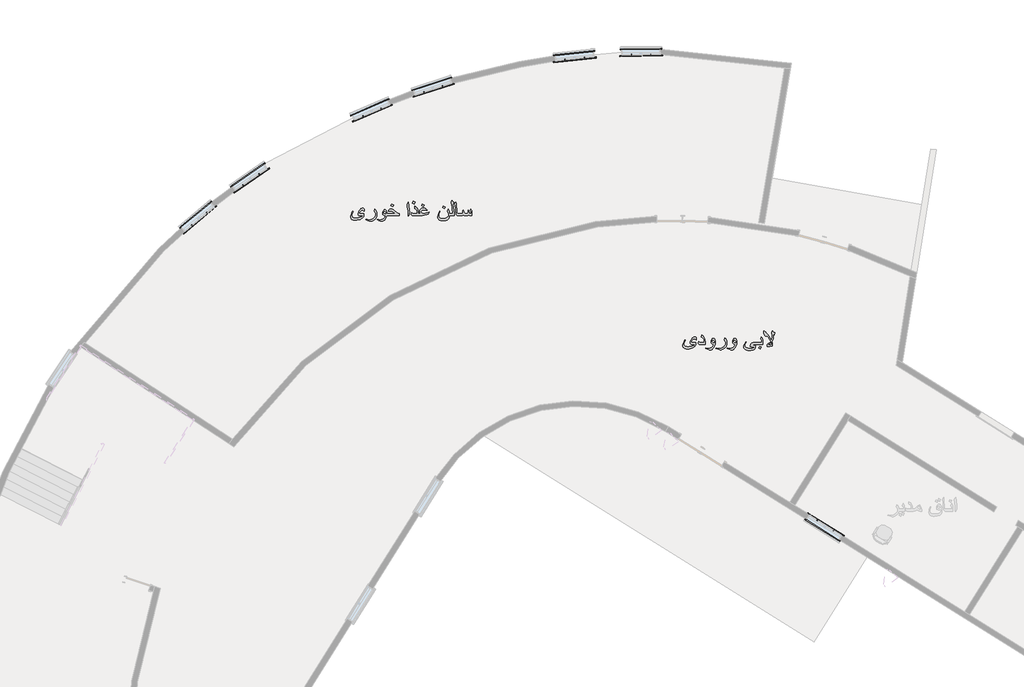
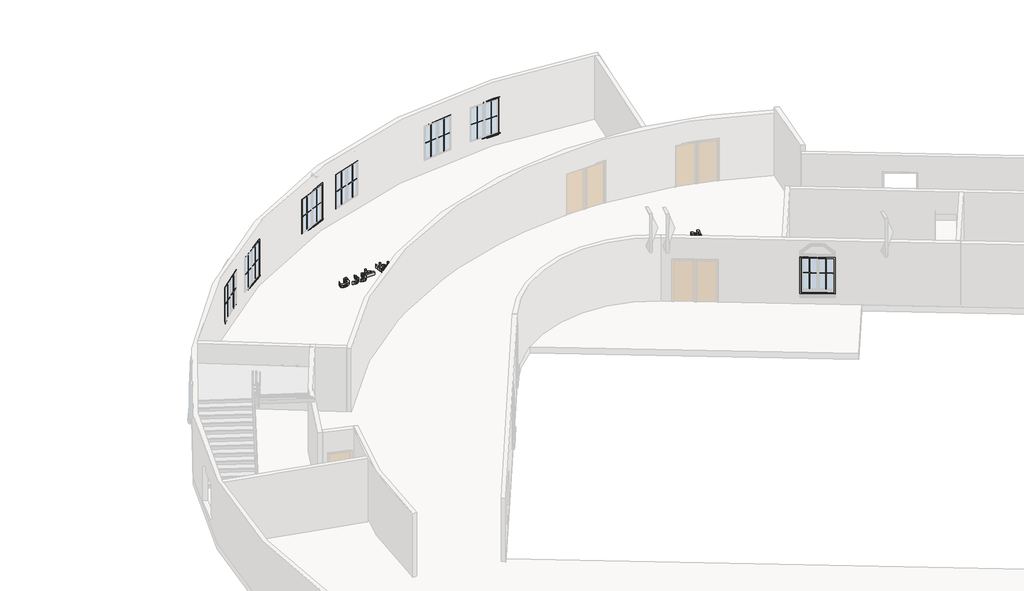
# One storey, part 11 of 12: 30 proxies.
"""IFC4 building model written with IfcOpenShell, lengths in millimetres."""

from ifc_helpers import new_model, si_unit, origin, origin_with_axes, place, context, project, spatial, polyline, outline, extrude, transform, mapped, element, save
from components import m_muntin_pattern_2x2_m_muntin_pattern_2x2_d2d4b859, m_muntin_pattern_2x2_m_muntin_pattern_2x2_f3921bb5, m_trim_window_exterior_flat_with_sill_136e302d, m_trim_window_exterior_flat_with_sill_88aaac3a, m_trim_window_interior_flat_picture_frame_c6c50358, m_trim_window_interior_flat_picture_frame_896fcfd1

model = new_model("IFC4")

# Units and contexts
model_context = context("Model", 3, world=origin())
ifc_project = project(units=[si_unit("LENGTHUNIT", "METRE", prefix="MILLI")], contexts=[model_context])

# Site, building, storey
site = spatial("IfcSite", under=ifc_project)
building = spatial("IfcBuilding", under=site)
storey = spatial("IfcBuildingStorey", under=building, Name="\u200fهمکف", Elevation=0.0)

# Proxies
placement = place(None, origin())
element("IfcBuildingElementProxy", 1, Name="600mm Arial", ObjectType="600mm Arial", at=placement, inside=storey, context=model_context, shape_type="SweptSolid", body=[
    extrude(outline(polyline([(30091.6300793, -19355.5153686), (30089.5699402, -19385.0195046), (30086.774037, -19406.4302367), (30071.2678109, -19389.3053299), (30053.0024698, -19376.1903367), (30033.1920244, -19367.8578095), (30013.0504852, -19365.0803005), (29995.2266025, -19367.7750361), (29976.9244732, -19375.8592429), (29958.1440974, -19389.332921), (29938.8854749, -19408.1960703), (29912.1772421, -19443.7702593), (29905.5001839, -19458.5499184), (29903.2744978, -19471.3246207), (29905.4817898, -19478.4063491), (29912.1036657, -19483.4647265), (29942.7114477, -19487.5114285), (29975.5265217, -19487.5114285), (30019.2309027, -19488.1000397), (30053.0760462, -19491.9260124), (30061.702879, -19494.9702359), (30067.8649025, -19500.8655449), (30072.7945212, -19521.2094192), (30067.1291385, -19568.6569996), (30060.0474101, -19590.1114177), (30050.1329903, -19610.0529211), (30021.8060767, -19645.3971838), (29982.1483976, -19674.6897876), (29936.8345328, -19695.8062142), (29884.1814223, -19710.889376), (29824.1890659, -19719.939273), (29756.8574637, -19722.9559054), (29722.1661916, -19721.2636482), (29691.815927, -19716.1868767), (29665.8066699, -19707.7255908), (29644.1384204, -19695.8797905), (29625.6615472, -19679.2239332), (29612.4637806, -19658.8340736), (29604.5451207, -19634.7102118), (29601.9055674, -19606.8523477), (29605.4740227, -19564.9873767), (29616.1793888, -19521.2094192), (29629.0552586, -19486.1502651), (29646.1985596, -19449.5460066), (29672.5389104, -19402.7514168), (29686.665579, -19409.2261399), (29666.5240398, -19450.5024998), (29651.7167895, -19488.9829565), (29642.6117101, -19523.9685342), (29639.5766837, -19554.7602572), (29641.7563845, -19576.4928861), (29648.295487, -19595.3376413), (29659.1939911, -19611.2945228), (29674.4518968, -19624.3635307), (29693.7565045, -19634.5354679), (29716.7951145, -19641.8011373), (29743.5677267, -19646.1605389), (29774.0743411, -19647.6136728), (29827.5643832, -19643.7141236), (29889.1478292, -19632.0154762), (29942.4355362, -19617.4473492), (29990.1682251, -19600.2304718), (30023.8846099, -19584.1172404), (30035.1234049, -19572.8600514), (30033.7806356, -19567.7464916), (30029.7523278, -19564.7666475), (30012.461874, -19562.8536611), (29912.2508185, -19562.8536611), (29894.9235765, -19559.340388), (29879.7300501, -19548.8005689), (29869.1350487, -19532.7057316), (29865.6033815, -19512.5274042), (29871.2687642, -19476.7692742), (29888.2649124, -19430.1218372), (29915.7089092, -19378.1401113), (29948.303254, -19335.5025881), (29969.3736953, -19315.4806105), (29990.4993189, -19301.1791979), (30011.6801247, -19292.5983504), (30032.9161129, -19289.7380679), (30057.3618715, -19294.2446223), (30075.9583063, -19307.7642856), (30087.7121361, -19328.7151653), (30091.6300793, -19355.5153686)])), origin_with_axes(), (0.0, 0.0, 1.0), 150.0),
    extrude(outline(polyline([(30402.4167889, -19562.8536611), (30219.5058609, -19562.8536611), (30197.4329412, -19559.4139644), (30177.7144662, -19549.0948745), (30163.8085268, -19534.066895), (30159.1732137, -19516.5005297), (30160.7918944, -19487.6585813), (30166.972312, -19459.2580913), (30176.390091, -19459.2580913), (30182.6072967, -19472.6857841), (30192.429746, -19481.7724694), (30203.8340879, -19486.0766887), (30218.9172497, -19487.5114285), (30374.1634516, -19487.5114285), (30369.1234683, -19422.6170445), (30362.8234891, -19395.4673533), (30354.0035183, -19371.8493292), (30339.4078001, -19346.8333535), (30320.6366213, -19326.3791146), (30297.6899819, -19310.4866124), (30270.5678818, -19299.155847), (30275.2767713, -19223.8136143), (30308.9103827, -19243.5872716), (30337.2648875, -19268.4744886), (30360.3402857, -19298.4752653), (30378.1365772, -19333.5896017), (30388.7591698, -19366.3035081), (30396.3467359, -19403.6711218), (30400.8992756, -19445.6924427), (30402.4167889, -19492.3674708), (30402.4167889, -19562.8536611)])), origin_with_axes(), (0.0, 0.0, 1.0), 150.0),
    extrude(outline(polyline([(30760.2923938, -19536.9547686), (30757.192988, -19573.0991747), (30747.8947705, -19609.1332161), (30732.3977415, -19645.0568929), (30710.7019008, -19680.8702051), (30682.0438934, -19715.7638124), (30651.2521704, -19740.6878176), (30618.3267318, -19755.6422207), (30583.2675777, -19760.6270217), (30556.0810983, -19758.6404589), (30528.0852784, -19752.6807706), (30474.0802015, -19732.6679901), (30421.252347, -19708.8292368), (30428.1685285, -19694.2611098), (30475.6988823, -19706.9162504), (30520.4333329, -19713.5381263), (30544.7595298, -19711.9010514), (30568.4419333, -19706.9898268), (30591.4805432, -19698.8044524), (30613.8753597, -19687.3449283), (30648.3091144, -19662.0714352), (30682.7428692, -19627.4537394), (30732.0390565, -19562.8536611), (30684.0672444, -19558.1815598), (30665.2684744, -19552.3414331), (30649.9277952, -19544.1652557), (30636.4081319, -19531.7768296), (30626.7512295, -19515.9487067), (30620.9570881, -19496.6808872), (30619.0257076, -19473.9733711), (30623.9553264, -19430.7104484), (30638.7441826, -19390.6848874), (30650.9302737, -19371.2423239), (30664.6798632, -19357.3547786), (30679.9929513, -19349.0222514), (30696.8695378, -19346.2447423), (30713.4242276, -19349.0130543), (30727.4773198, -19357.3179904), (30739.0288145, -19371.1595505), (30748.0787115, -19390.5377346), (30757.2389732, -19431.9612472), (30760.2923938, -19487.0699701), (30760.2923938, -19536.9547686)]), holes=[polyline([(30732.0390565, -19487.5114285), (30722.3269719, -19455.0274483), (30710.8490536, -19434.3892684), (30698.7825242, -19424.7875483), (30684.36155, -19421.5869749), (30673.9137013, -19423.4263849), (30664.9373806, -19428.9446148), (30658.7569631, -19437.2587479), (30656.6968239, -19447.4858674), (30661.1114079, -19464.8131094), (30674.3551597, -19477.3578854), (30697.6053018, -19484.9730427), (30732.0390565, -19487.5114285)])]), origin_with_axes(), (0.0, 0.0, 1.0), 150.0),
    extrude(outline(polyline([(31174.6746731, -19565.9438699), (31172.2282579, -19588.5134303), (31164.8890121, -19611.4876609), (31152.6569357, -19634.8665616), (31135.5320289, -19658.6501326), (31097.198725, -19697.9399297), (31050.4777116, -19731.3436149), (31006.4790249, -19753.30617), (30971.0152006, -19760.6270217), (30941.1431826, -19758.4933061), (30908.9167198, -19752.0921594), (30848.1426142, -19731.9322261), (30788.545731, -19708.8292368), (30795.4619125, -19693.2310402), (30853.072233, -19706.6955212), (30907.298039, -19713.5381263), (30934.3741539, -19711.5147753), (30962.0388799, -19705.4447224), (30990.2922172, -19695.3279676), (31019.1341656, -19681.1645107), (31067.9705004, -19647.6872492), (31109.1181016, -19606.4108893), (31125.4382666, -19584.3839549), (31137.0955273, -19563.4790605), (31144.0898838, -19543.6962062), (31146.4213359, -19525.035392), (31141.3813526, -19493.0664466), (31126.2614026, -19459.5523968), (31106.6532922, -19431.5197888), (31080.4968824, -19402.7514168), (31104.0413301, -19327.4091842), (31134.5755357, -19358.3112718), (31155.839115, -19389.2133594), (31169.9657836, -19426.1487117), (31174.6746731, -19467.2043423), (31174.6746731, -19565.9438699)])), origin_with_axes(), (0.0, 0.0, 1.0), 150.0),
    extrude(outline(polyline([(31532.550278, -19536.9547686), (31529.4508722, -19573.0991747), (31520.1526548, -19609.1332161), (31504.6556258, -19645.0568929), (31482.9597851, -19680.8702051), (31454.3017777, -19715.7638124), (31423.5100547, -19740.6878176), (31390.5846161, -19755.6422207), (31355.525462, -19760.6270217), (31328.3389825, -19758.6404589), (31300.3431627, -19752.6807706), (31246.3380858, -19732.6679901), (31193.5102313, -19708.8292368), (31200.4264128, -19694.2611098), (31247.9567666, -19706.9162504), (31292.6912172, -19713.5381263), (31317.0174141, -19711.9010514), (31340.6998176, -19706.9898268), (31363.7384275, -19698.8044524), (31386.133244, -19687.3449283), (31420.5669987, -19662.0714352), (31455.0007535, -19627.4537394), (31504.2969408, -19562.8536611), (31456.3251286, -19558.1815598), (31437.5263587, -19552.3414331), (31422.1856795, -19544.1652557), (31408.6660162, -19531.7768296), (31399.0091138, -19515.9487067), (31393.2149724, -19496.6808872), (31391.2835919, -19473.9733711), (31396.2132106, -19430.7104484), (31411.0020668, -19390.6848874), (31423.1881579, -19371.2423239), (31436.9377475, -19357.3547786), (31452.2508356, -19349.0222514), (31469.1274221, -19346.2447423), (31485.6821119, -19349.0130543), (31499.7352041, -19357.3179904), (31511.2866987, -19371.1595505), (31520.3365958, -19390.5377346), (31529.4968575, -19431.9612472), (31532.550278, -19487.0699701), (31532.550278, -19536.9547686)]), holes=[polyline([(31504.2969408, -19487.5114285), (31494.5848561, -19455.0274483), (31483.1069379, -19434.3892684), (31471.0404085, -19424.7875483), (31456.6194342, -19421.5869749), (31446.1715856, -19423.4263849), (31437.1952649, -19428.9446148), (31431.0148474, -19437.2587479), (31428.9547082, -19447.4858674), (31433.3692921, -19464.8131094), (31446.613044, -19477.3578854), (31469.8631861, -19484.9730427), (31504.2969408, -19487.5114285)])]), origin_with_axes(), (0.0, 0.0, 1.0), 150.0),
    extrude(outline(polyline([(32464.9104066, -19562.8536611), (32257.7192669, -19562.8536611), (32229.4659297, -19562.8536611), (32186.2030071, -19562.8536611), (32091.5837579, -19565.9438699), (32067.8553692, -19570.579183), (32061.9232721, -19574.0556678), (32059.9459063, -19578.3047049), (32062.3923216, -19583.9057083), (32069.7315674, -19587.906425), (32099.0885506, -19591.1069983), (32126.4589711, -19591.9899151), (32170.6048105, -19596.5516519), (32198.4166893, -19603.026375), (32207.576951, -19611.6716019), (32210.6303716, -19624.9521419), (32207.5033746, -19661.8323119), (32198.1223837, -19693.3046166), (32182.4873989, -19719.3690559), (32160.5984202, -19740.02563), (32128.9329775, -19757.2792955), (32088.3831846, -19769.6033424), (32038.9490415, -19776.9977705), (31980.6305482, -19779.4625799), (31939.1702473, -19777.5495935), (31902.1981068, -19771.8106344), (31869.7141266, -19762.2457025), (31841.7183068, -19748.8547979), (31817.7048096, -19730.7917919), (31800.5523115, -19709.2706952), (31790.2608127, -19684.2915077), (31786.8303131, -19655.8542295), (31788.5593585, -19631.2061358), (31793.7464946, -19605.8222781), (31814.4950392, -19552.8472708), (31866.8814353, -19468.6758703), (31881.0081039, -19476.180663), (31848.9287939, -19529.0085175), (31830.6082705, -19569.9169954), (31824.5014294, -19602.5849166), (31827.7847762, -19626.2397289), (31837.6348166, -19646.8779088), (31854.0515507, -19664.4994564), (31877.0349783, -19679.1043716), (31904.3870047, -19690.0488609), (31936.4111324, -19697.8663533), (31973.1073614, -19702.5568488), (32014.4756917, -19704.1203472), (32069.6947792, -19701.9130553), (32117.9241088, -19695.2911794), (32159.2004686, -19682.3785213), (32169.5195586, -19674.4046791), (32172.9592553, -19665.4191613), (32171.3037863, -19659.3675025), (32166.3373793, -19655.0448891), (32144.2644596, -19651.5867983), (32107.1083781, -19649.0116244), (32073.7782694, -19647.6136728), (32050.0498807, -19645.9030215), (32034.1941667, -19640.7710677), (32025.2546342, -19632.2178113), (32022.27479, -19620.2432523), (32024.1601853, -19595.7974938), (32029.8163709, -19573.6693918), (32039.2433471, -19553.8589463), (32052.4411136, -19536.3661574), (32081.5405795, -19513.2999563), (32119.1013312, -19497.0763604), (32151.4013703, -19489.9026614), (32185.3200903, -19487.5114285), (32229.4659297, -19487.5114285), (32257.7192669, -19487.5114285), (32436.6570694, -19487.5114285), (32433.9715308, -19445.6096692), (32425.9149151, -19414.965099), (32413.1494099, -19393.8854607), (32389.568174, -19365.0803005), (32422.5304008, -19289.7380679), (32443.7204037, -19324.2086108), (32455.198322, -19350.2178679), (32462.4823855, -19393.8118843), (32464.9104066, -19458.9637857), (32464.9104066, -19562.8536611)])), origin_with_axes(), (0.0, 0.0, 1.0), 150.0),
    extrude(outline(polyline([(32417.8215112, -19663.6533278), (32387.2137292, -19722.9559054), (32323.6437205, -19688.5221506), (32352.6328217, -19628.7781146), (32417.8215112, -19663.6533278)])), origin_with_axes(), (0.0, 0.0, 1.0), 150.0),
    extrude(outline(polyline([(32898.1282441, -19139.0536026), (32876.9382412, -19225.8737535), (32851.0393488, -19214.3958353), (32851.9222655, -19250.0068124), (32848.684904, -19301.5102917), (32838.9728193, -19351.5422431), (32820.7994488, -19405.2162262), (32794.5326743, -19458.2280217), (32807.6292733, -19505.6112226), (32813.3682325, -19560.9406747), (32812.5588921, -19588.0167896), (32808.9536485, -19614.3571404), (32718.6018305, -19631.8683234), (32625.0126509, -19638.1958937), (32625.4541093, -19623.3334611), (32629.0225647, -19589.3043765), (32635.6076524, -19557.850466), (32670.1149835, -19537.5433798), (32701.8264115, -19514.4403905), (32730.7419363, -19488.5414981), (32756.861558, -19459.8467024), (32714.6287049, -19382.0028723), (32665.4796704, -19304.3061949), (32642.6709867, -19275.6113993), (32630.4573045, -19264.685304), (32621.1866782, -19261.0432723), (32603.5283424, -19267.5179954), (32592.3447298, -19270.9025097), (32580.6460823, -19266.1936202), (32563.7970869, -19252.0669516), (32528.1861098, -19211.0113209), (32507.9526001, -19178.1962469), (32502.5815229, -19146.7055481), (32505.9660373, -19105.2084591), (32512.735066, -19088.2123109), (32523.0357619, -19082.5469282), (32543.8578828, -19090.7874849), (32572.479102, -19115.509155), (32602.8293666, -19149.7221805), (32636.4905692, -19193.2058323), (32698.1475916, -19285.1763311), (32740.5275974, -19354.485299), (32778.7873249, -19425.4129477), (32795.9306259, -19371.996482), (32806.7463565, -19317.9914051), (32811.7127635, -19264.2438456), (32813.3682325, -19197.4732635), (32794.5326743, -19180.9921501), (32798.2114943, -19126.8399204), (32808.6593429, -19082.5469282), (32822.7860115, -19085.0485258), (32829.0767936, -19101.5296391), (32844.4174728, -19114.4790854), (32872.2293517, -19128.0171428), (32898.1282441, -19139.0536026)]), holes=[polyline([(32785.1148952, -19540.339283), (32782.6868741, -19521.5037248), (32772.165449, -19489.2772621), (32733.9057215, -19526.6540728), (32683.7266174, -19562.8536611), (32751.1225989, -19559.9106051), (32776.6168211, -19552.516177), (32782.9903767, -19547.0255383), (32785.1148952, -19540.339283)])]), origin_with_axes(), (0.0, 0.0, 1.0), 150.0),
])
element("IfcBuildingElementProxy", 2, Name="600mm Arial", ObjectType="600mm Arial", at=placement, inside=storey, context=model_context, shape_type="SweptSolid", body=[
    extrude(outline(polyline([(18177.8113741, -14734.3745959), (18175.751235, -14763.8787319), (18172.9553318, -14785.289464), (18157.4491057, -14768.1645571), (18139.1837646, -14755.049564), (18119.3733192, -14746.7170368), (18099.23178, -14743.9395278), (18081.4078973, -14746.6342634), (18063.105768, -14754.7184702), (18044.3253922, -14768.1921483), (18025.0667697, -14787.0552976), (17998.3585369, -14822.6294865), (17991.6814787, -14837.4091457), (17989.4557926, -14850.183848), (17991.6630846, -14857.2655764), (17998.2849605, -14862.3239538), (18028.8927425, -14866.3706557), (18061.7078165, -14866.3706557), (18105.4121975, -14866.9592669), (18139.257341, -14870.7852397), (18147.8841738, -14873.8294632), (18154.0461972, -14879.7247722), (18158.975816, -14900.0686465), (18153.3104333, -14947.5162268), (18146.2287048, -14968.9706449), (18136.3142851, -14988.9121483), (18107.9873715, -15024.256411), (18068.3296924, -15053.5490149), (18023.0158276, -15074.6654414), (17970.3627171, -15089.7486032), (17910.3703607, -15098.7985003), (17843.0387585, -15101.8151327), (17808.3474864, -15100.1228755), (17777.9972218, -15095.0461039), (17751.9879647, -15086.5848181), (17730.3197152, -15074.7390178), (17711.842842, -15058.0831605), (17698.6450754, -15037.6933009), (17690.7264155, -15013.5694391), (17688.0868622, -14985.711575), (17691.6553175, -14943.8466039), (17702.3606836, -14900.0686465), (17715.2365534, -14865.0094924), (17732.3798544, -14828.4052338), (17758.7202052, -14781.6106441), (17772.8468738, -14788.0853672), (17752.7053346, -14829.361727), (17737.8980843, -14867.8421837), (17728.7930049, -14902.8277615), (17725.7579785, -14933.6194845), (17727.9376793, -14955.3521133), (17734.4767817, -14974.1968685), (17745.3752859, -14990.1537501), (17760.6331916, -15003.222758), (17779.9377993, -15013.3946951), (17802.9764092, -15020.6603645), (17829.7490214, -15025.0197662), (17860.2556359, -15026.4729), (17913.745678, -15022.5733509), (17975.329124, -15010.8747035), (18028.616831, -14996.3065764), (18076.3495199, -14979.0896991), (18110.0659047, -14962.9764677), (18121.3046997, -14951.7192786), (18119.9619304, -14946.6057189), (18115.9336225, -14943.6258747), (18098.6431688, -14941.7128884), (17998.4321133, -14941.7128884), (17981.1048713, -14938.1996153), (17965.9113449, -14927.6597961), (17955.3163435, -14911.5649589), (17951.7846763, -14891.3866314), (17957.450059, -14855.6285015), (17974.4462072, -14808.9810645), (18001.890204, -14756.9993386), (18034.4845488, -14714.3618153), (18055.5549901, -14694.3398378), (18076.6806137, -14680.0384252), (18097.8614195, -14671.4575777), (18119.0974077, -14668.5972951), (18143.5431663, -14673.1038496), (18162.1396011, -14686.6235129), (18173.8934309, -14707.5743925), (18177.8113741, -14734.3745959)])), origin_with_axes(), (0.0, 0.0, 1.0), 150.0),
    extrude(outline(polyline([(18620.4469907, -14944.8030971), (18618.0005755, -14967.3726575), (18610.6613297, -14990.3468881), (18598.4292533, -15013.7257889), (18581.3043464, -15037.5093599), (18542.9710425, -15076.799157), (18496.2500292, -15110.2028421), (18452.2513425, -15132.1653973), (18416.7875182, -15139.486249), (18386.9155002, -15137.3525334), (18354.6890374, -15130.9513867), (18293.9149318, -15110.7914533), (18234.3180486, -15087.688464), (18241.2342301, -15072.0902674), (18298.8445505, -15085.5547485), (18353.0703566, -15092.3973536), (18380.1464715, -15090.3740026), (18407.8111975, -15084.3039497), (18436.0645347, -15074.1871948), (18464.9064832, -15060.023738), (18513.742818, -15026.5464764), (18554.8904192, -14985.2701166), (18571.2105842, -14963.2431821), (18582.8678449, -14942.3382877), (18589.8622014, -14922.5554335), (18592.1936535, -14903.8946193), (18587.1536702, -14871.9256739), (18572.0337202, -14838.4116241), (18552.4256098, -14810.3790161), (18526.2692, -14781.6106441), (18549.8136477, -14706.2684114), (18580.3478533, -14737.170499), (18601.6114326, -14768.0725866), (18615.7381012, -14805.007939), (18620.4469907, -14846.0635696), (18620.4469907, -14944.8030971)])), origin_with_axes(), (0.0, 0.0, 1.0), 150.0),
    extrude(outline(polyline([(19420.9582122, -14941.7128884), (18976.1017491, -14941.7128884), (18975.2231898, -14951.9584019), (18965.9249724, -14987.9924434), (18950.4279434, -15023.9161202), (18928.7321027, -15059.7294324), (18900.0740953, -15094.6230397), (18869.2823723, -15119.5470448), (18836.3569337, -15134.5014479), (18801.2977796, -15139.486249), (18774.1113001, -15137.4996862), (18746.1154803, -15131.5399979), (18692.1104034, -15111.5272173), (18639.2825489, -15087.688464), (18646.1987304, -15073.120337), (18693.7290842, -15085.7754777), (18738.4635348, -15092.3973536), (18762.7897317, -15090.7602787), (18786.4721352, -15085.8490541), (18809.5107451, -15077.6636797), (18831.9055616, -15066.2041555), (18866.3393163, -15040.9306625), (18900.7730711, -15006.3129667), (18950.0692584, -14941.7128884), (18902.0974462, -14937.040787), (18883.2986763, -14931.2006603), (18867.9579971, -14923.024483), (18854.4383338, -14910.6360568), (18844.7814314, -14894.807934), (18838.98729, -14875.5401145), (18837.0559095, -14852.8325983), (18841.9855282, -14809.5696757), (18856.7743844, -14769.5441146), (18868.9604755, -14750.1015512), (18882.7100651, -14736.2140059), (18898.0231531, -14727.8814787), (18914.8997397, -14725.1039696), (18931.4544295, -14727.8722816), (18945.5075217, -14736.1772177), (18957.0590163, -14750.0187777), (18966.1089134, -14769.3969618), (18975.2691751, -14810.8204745), (18978.3225956, -14866.3706557), (19279.6915261, -14866.3706557), (19209.2053358, -14816.1915516), (19175.1394631, -14796.8777469), (19144.1637991, -14783.6707832), (19110.8336903, -14775.0623445), (19077.0621231, -14772.192865), (19034.8292701, -14774.9887681), (19048.6248449, -14746.6250663), (19066.1728161, -14724.5153584), (19081.0812339, -14712.4120408), (19097.8474559, -14703.7668139), (19116.4714819, -14698.5796777), (19136.953312, -14696.8506324), (19158.8790789, -14699.4442004), (19182.7178322, -14707.2249046), (19208.4695718, -14720.192745), (19236.1342979, -14738.3477214), (19328.6934078, -14817.368774), (19370.5215907, -14852.2807753), (19396.2365422, -14866.3706557), (19420.9582122, -14866.3706557), (19420.9582122, -14941.7128884)]), holes=[polyline([(18950.0692584, -14866.3706557), (18940.3571737, -14833.8866756), (18928.8792555, -14813.2484956), (18916.812726, -14803.6467756), (18902.3917518, -14800.4462022), (18891.9439032, -14802.2856122), (18882.9675825, -14807.8038421), (18876.787165, -14816.1179752), (18874.7270258, -14826.3450947), (18879.1416097, -14843.6723366), (18892.3853616, -14856.2171127), (18915.6355037, -14863.83227), (18950.0692584, -14866.3706557)])]), origin_with_axes(), (0.0, 0.0, 1.0), 150.0),
    extrude(outline(polyline([(19223.1848516, -14562.2058221), (19192.5770696, -14621.5083998), (19129.0070609, -14587.074645), (19157.9961621, -14527.330609), (19223.1848516, -14562.2058221)])), origin_with_axes(), (0.0, 0.0, 1.0), 150.0),
    extrude(outline(polyline([(19797.6693753, -14838.5587769), (19794.3952255, -14869.9758993), (19784.5727763, -14900.3629521), (19755.2893695, -14951.1306674), (19747.9317296, -14947.1575419), (19749.7711395, -14920.3021562), (19750.5804799, -14899.9214937), (19742.5606524, -14783.6707832), (19723.3572123, -14627.8359701), (19708.2004741, -14527.330609), (19731.0091578, -14489.8802219), (19755.2893695, -14451.9883764), (19773.0212816, -14576.5532199), (19789.870277, -14719.0707049), (19797.6693753, -14838.5587769)])), origin_with_axes(), (0.0, 0.0, 1.0), 150.0),
    extrude(outline(polyline([(20504.002806, -14809.8639813), (20475.7494688, -14885.2062139), (20408.9237044, -14907.168769), (20332.3490671, -14925.3789278), (20254.1189608, -14937.6293982), (20182.3267895, -14941.7128884), (20108.4560848, -14941.7128884), (20080.2027476, -14941.7128884), (19925.5451568, -14941.7128884), (19903.4722371, -14938.2731917), (19883.7537622, -14927.9541017), (19869.8478228, -14912.9261222), (19865.2125096, -14895.359757), (19866.8311904, -14866.5178085), (19873.0116079, -14838.1173185), (19882.429387, -14838.1173185), (19888.6465927, -14851.5450113), (19898.469042, -14860.6316966), (19909.8733838, -14864.935916), (19924.9565456, -14866.3706557), (20080.2027476, -14866.3706557), (20075.1627643, -14801.4762718), (20068.8627851, -14774.3265806), (20060.0428143, -14750.7085565), (20045.4470961, -14725.6925808), (20026.6759173, -14705.2383419), (20003.7292778, -14689.3458397), (19976.6071778, -14678.0150742), (19981.3160673, -14602.6728416), (20014.9496787, -14622.4464988), (20043.3041835, -14647.3337158), (20066.3795816, -14677.3344925), (20084.1758731, -14712.448829), (20094.7984658, -14745.1627354), (20102.3860319, -14782.530349), (20106.9385716, -14824.5516699), (20108.2982036, -14866.3706557), (20181.4438727, -14866.3706557), (20162.6818909, -14824.2849555), (20157.3292079, -14801.0716016), (20155.5449802, -14778.5204353), (20158.0557748, -14756.1348159), (20165.5881587, -14735.6253947), (20178.1421318, -14716.9921716), (20195.7176941, -14700.2351467), (20217.2387908, -14686.3935867), (20241.6293671, -14676.506758), (20268.8894229, -14670.5746609), (20299.0189583, -14668.5972951), (20323.0048644, -14670.2435671), (20344.7834785, -14675.1823829), (20364.3548007, -14683.4137425), (20381.7188308, -14694.937646), (20400.4440244, -14713.9939333), (20428.6605734, -14749.0898757), (20420.8614751, -14753.3573068), (20370.0937598, -14746.2939725), (20323.4463228, -14743.9395278), (20273.0280954, -14746.7906132), (20234.786762, -14755.3438696), (20210.6720972, -14768.5692273), (20204.643431, -14776.5476681), (20202.6338756, -14785.4366168), (20207.7106471, -14804.7688157), (20222.9409617, -14826.2715183), (20246.1543156, -14847.5902799), (20275.180205, -14866.3706557), (20384.514734, -14844.9599236), (20504.002806, -14809.8639813)])), origin_with_axes(), (0.0, 0.0, 1.0), 150.0),
    extrude(outline(polyline([(20325.0650036, -14562.2058221), (20294.4572216, -14621.5083998), (20230.8872128, -14587.074645), (20259.876314, -14527.330609), (20325.0650036, -14562.2058221)])), origin_with_axes(), (0.0, 0.0, 1.0), 150.0),
    extrude(outline(polyline([(19995.4427359, -14458.6102523), (19964.8349539, -14517.9128299), (19901.2649451, -14483.4790752), (19930.2540464, -14423.7350391), (19995.4427359, -14458.6102523)])), origin_with_axes(), (0.0, 0.0, 1.0), 150.0),
    extrude(outline(polyline([(21398.6918183, -14941.7128884), (21228.9184543, -14941.7128884), (21225.8056747, -14981.4901291), (21215.7073139, -15018.4162844), (21198.8767126, -15049.2539926), (21175.3138708, -15074.0032538), (21141.8825945, -15094.4115075), (21099.566968, -15108.9888316), (21048.3669914, -15117.735226), (20988.2826645, -15120.6506908), (20949.5722815, -15118.848069), (20915.6995468, -15113.4402037), (20886.6644604, -15104.4270948), (20862.4670221, -15091.8087424), (20841.608113, -15073.8101158), (20826.7088922, -15051.5992403), (20817.7693597, -15025.176116), (20814.7895156, -14994.5407429), (20816.8680488, -14958.984948), (20823.1036487, -14922.9509066), (20845.838756, -14850.0366952), (20876.0050796, -14781.6106441), (20890.1317482, -14788.968284), (20866.311389, -14841.1891332), (20852.2399027, -14881.0123592), (20845.3421153, -14913.257216), (20843.0428528, -14942.7429579), (20845.3513123, -14966.3333909), (20852.2766909, -14986.9255856), (20863.8189885, -15004.519542), (20879.9782051, -15019.1152601), (20900.423247, -15030.5747843), (20924.8230203, -15038.7601587), (20953.1775251, -15043.6713833), (20985.4867613, -15045.3084582), (21023.8016711, -15043.5426246), (21059.8725007, -15038.2451239), (21093.6992502, -15029.415956), (21125.2819195, -15017.055121), (21158.372905, -14997.8056956), (21182.0093231, -14975.0797853), (21196.1911741, -14948.8773902), (21200.9184577, -14919.1985103), (21197.5339433, -14877.5910566), (21187.3804003, -14839.0002353), (21173.1065789, -14808.1717241), (21153.8295623, -14781.6106441), (21186.7917891, -14706.2684114), (21207.1724516, -14740.0031904), (21220.0483214, -14774.400157), (21226.8909266, -14814.7936), (21229.165306, -14866.3706557), (21351.6029229, -14866.3706557), (21304.5140275, -14509.3779676), (21285.6784694, -14498.6358134), (21291.5645813, -14444.5571601), (21309.2229171, -14395.4817019), (21323.3495857, -14400.0434387), (21328.8678156, -14420.7919832), (21345.4225054, -14435.6544158), (21379.8562602, -14451.9883764), (21376.8396278, -14497.7528966), (21369.7027171, -14534.0996377), (21351.6029229, -14527.330609), (21398.6918183, -14857.1000295), (21398.6918183, -14941.7128884)])), origin_with_axes(), (0.0, 0.0, 1.0), 150.0),
    extrude(outline(polyline([(21078.4873297, -14628.1302757), (21047.8795477, -14687.4328533), (20984.3095389, -14652.9990985), (21013.2986402, -14593.2550625), (21078.4873297, -14628.1302757)])), origin_with_axes(), (0.0, 0.0, 1.0), 150.0),
    extrude(outline(polyline([(22029.6830164, -14941.7128884), (21998.633776, -14941.7128884), (21974.7030523, -14939.8182961), (21954.4143602, -14934.1345193), (21936.7376304, -14924.9926517), (21920.6427931, -14912.7237871), (21903.0212455, -14926.0411154), (21887.8277191, -14933.9137901), (21863.5842956, -14939.7631138), (21831.762503, -14941.7128884), (21805.7164578, -14941.7128884), (21784.931125, -14939.5423846), (21764.0722159, -14933.0308733), (21730.521378, -14914.4896207), (21711.3363319, -14927.641402), (21693.8067548, -14935.9003528), (21671.8625938, -14940.2597545), (21639.433796, -14941.7128884), (21587.0473998, -14941.7128884), (21558.7940626, -14941.7128884), (21531.4236422, -14941.7128884), (21507.1434305, -14936.1578702), (21488.1607195, -14919.4928158), (21475.6159435, -14895.4701216), (21466.5292582, -14861.9560718), (21455.1984928, -14767.778281), (21450.268874, -14674.3362543), (21443.4998453, -14601.642772), (21432.2426563, -14561.1757525), (21421.868384, -14543.0759584), (21408.1095974, -14527.330609), (21459.9073823, -14451.9883764), (21470.3184428, -14504.0068905), (21477.1242597, -14565.2960309), (21483.45183, -14759.6848771), (21492.4649389, -14817.368774), (21504.7889857, -14849.7423896), (21516.7451506, -14862.2135892), (21529.6578086, -14866.3706557), (21558.7940626, -14866.3706557), (21587.0473998, -14866.3706557), (21640.6110183, -14866.3706557), (21670.0415779, -14864.7887632), (21689.7600529, -14860.0430854), (21700.5114042, -14853.4396036), (21708.1909408, -14844.2241596), (21712.7986628, -14832.3967535), (21714.3345702, -14817.9573852), (21713.3045006, -14791.5434579), (21709.4785278, -14761.8921691), (21723.6051964, -14734.5217487), (21742.146449, -14795.5901599), (21755.6845064, -14824.8367785), (21770.3997862, -14845.769264), (21790.7804488, -14861.2203078), (21814.8399313, -14866.3706557), (21841.9160461, -14866.3706557), (21868.256397, -14863.7586936), (21886.6504967, -14855.9228071), (21898.7906026, -14840.4717633), (21902.8373045, -14817.9573852), (21901.5129293, -14790.5869647), (21897.8341094, -14761.8921691), (21911.960778, -14734.5217487), (21920.6427931, -14777.7846713), (21933.0772045, -14821.1579585), (21948.0132135, -14848.8594728), (21964.4943269, -14861.99286), (21985.9786354, -14866.3706557), (21996.0769962, -14864.4392753), (22004.0048532, -14858.6451338), (22009.136807, -14849.8343601), (22010.8474583, -14838.8530825), (22006.5432389, -14811.9609087), (21993.6305809, -14783.6707832), (21973.176342, -14753.3573068), (21996.7207897, -14706.2684114), (22011.3257049, -14732.0201511), (22020.4123902, -14753.945918), (22027.3653599, -14789.2993778), (22029.6830164, -14834.7328042), (22029.6830164, -14941.7128884)])), origin_with_axes(), (0.0, 0.0, 1.0), 150.0),
])
m_muntin_pattern_2x2_m_muntin_pattern_2x2_shape = m_muntin_pattern_2x2_m_muntin_pattern_2x2_d2d4b859(model_context)
element("IfcBuildingElementProxy", 3, Name="M_Muntin Pattern_2x2 : M_Muntin Pattern_2x2", ObjectType="M_Muntin Pattern_2x2 : M_Muntin Pattern_2x2", at=placement, inside=storey, context=model_context, shape_type="MappedRepresentation", body=[
    mapped(m_muntin_pattern_2x2_m_muntin_pattern_2x2_shape, transform((34424.4094685, -25867.1058623, 669.85), x_axis=(0.8480480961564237, -0.5299192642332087, 0.0), y_axis=(0.5299192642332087, 0.8480480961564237, 0.0), z_axis=(0.0, 0.0, 1.0))),
])
element("IfcBuildingElementProxy", 4, Name="M_Muntin Pattern_2x2 : M_Muntin Pattern_2x2", ObjectType="M_Muntin Pattern_2x2 : M_Muntin Pattern_2x2", at=placement, inside=storey, context=model_context, shape_type="MappedRepresentation", body=[
    mapped(m_muntin_pattern_2x2_m_muntin_pattern_2x2_shape, transform((12526.8235095, -14842.2158247, 669.85), x_axis=(-0.7658740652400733, -0.6429906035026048, 0.0), y_axis=(0.6429906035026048, -0.7658740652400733, 0.0), z_axis=(0.0, 0.0, 1.0))),
])
element("IfcBuildingElementProxy", 5, Name="M_Muntin Pattern_2x2 : M_Muntin Pattern_2x2", ObjectType="M_Muntin Pattern_2x2 : M_Muntin Pattern_2x2", at=placement, inside=storey, context=model_context, shape_type="MappedRepresentation", body=[
    mapped(m_muntin_pattern_2x2_m_muntin_pattern_2x2_shape, transform((14401.4429593, -13451.5795941, 669.85), x_axis=(-0.8220762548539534, -0.5693774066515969, 0.0), y_axis=(0.5693774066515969, -0.8220762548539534, 0.0), z_axis=(0.0, 0.0, 1.0))),
])
element("IfcBuildingElementProxy", 6, Name="M_Muntin Pattern_2x2 : M_Muntin Pattern_2x2", ObjectType="M_Muntin Pattern_2x2 : M_Muntin Pattern_2x2", at=placement, inside=storey, context=model_context, shape_type="MappedRepresentation", body=[
    mapped(m_muntin_pattern_2x2_m_muntin_pattern_2x2_shape, transform((18776.0942325, -11100.0250106, 669.85), x_axis=(-0.9177745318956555, -0.397101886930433, 0.0), y_axis=(0.397101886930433, -0.9177745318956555, 0.0), z_axis=(0.0, 0.0, 1.0))),
])
element("IfcBuildingElementProxy", 7, Name="M_Muntin Pattern_2x2 : M_Muntin Pattern_2x2", ObjectType="M_Muntin Pattern_2x2 : M_Muntin Pattern_2x2", at=placement, inside=storey, context=model_context, shape_type="MappedRepresentation", body=[
    mapped(m_muntin_pattern_2x2_m_muntin_pattern_2x2_shape, transform((20984.1063746, -10299.2456349, 669.85), x_axis=(-0.9507568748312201, -0.3099376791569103, 0.0), y_axis=(0.3099376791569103, -0.9507568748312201, 0.0), z_axis=(0.0, 0.0, 1.0))),
])
element("IfcBuildingElementProxy", 8, Name="M_Muntin Pattern_2x2 : M_Muntin Pattern_2x2", ObjectType="M_Muntin Pattern_2x2 : M_Muntin Pattern_2x2", at=placement, inside=storey, context=model_context, shape_type="MappedRepresentation", body=[
    mapped(m_muntin_pattern_2x2_m_muntin_pattern_2x2_shape, transform((26072.3922378, -9277.5664467, 669.85), x_axis=(-0.9940834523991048, -0.10861901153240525, 0.0), y_axis=(0.10861901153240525, -0.9940834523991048, 0.0), z_axis=(0.0, 0.0, 1.0))),
])
element("IfcBuildingElementProxy", 9, Name="M_Muntin Pattern_2x2 : M_Muntin Pattern_2x2", ObjectType="M_Muntin Pattern_2x2 : M_Muntin Pattern_2x2", at=placement, inside=storey, context=model_context, shape_type="MappedRepresentation", body=[
    mapped(m_muntin_pattern_2x2_m_muntin_pattern_2x2_shape, transform((28451.2614496, -9163.9092221, 669.85), x_axis=(-0.9998977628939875, -0.014299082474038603, 0.0), y_axis=(0.014299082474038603, -0.9998977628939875, 0.0), z_axis=(0.0, 0.0, 1.0))),
])
m_muntin_pattern_2x2_m_muntin_pattern_2x2_2_shape = m_muntin_pattern_2x2_m_muntin_pattern_2x2_f3921bb5(model_context)
element("IfcBuildingElementProxy", 10, Name="M_Muntin Pattern_2x2 : M_Muntin Pattern_2x2", ObjectType="M_Muntin Pattern_2x2 : M_Muntin Pattern_2x2", at=placement, inside=storey, context=model_context, shape_type="MappedRepresentation", body=[
    mapped(m_muntin_pattern_2x2_m_muntin_pattern_2x2_2_shape, transform((35015.3505831, -26236.3668536, 669.85), x_axis=(-0.8480480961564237, 0.5299192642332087, 0.0), y_axis=(-0.5299192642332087, -0.8480480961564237, 0.0), z_axis=(0.0, 0.0, 1.0))),
])
element("IfcBuildingElementProxy", 11, Name="M_Muntin Pattern_2x2 : M_Muntin Pattern_2x2", ObjectType="M_Muntin Pattern_2x2 : M_Muntin Pattern_2x2", at=placement, inside=storey, context=model_context, shape_type="MappedRepresentation", body=[
    mapped(m_muntin_pattern_2x2_m_muntin_pattern_2x2_2_shape, transform((11993.143314, -15290.267752, 669.85), x_axis=(0.7658740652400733, 0.6429906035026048, 0.0), y_axis=(-0.6429906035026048, 0.7658740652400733, 0.0), z_axis=(0.0, 0.0, 1.0))),
])
element("IfcBuildingElementProxy", 12, Name="M_Muntin Pattern_2x2 : M_Muntin Pattern_2x2", ObjectType="M_Muntin Pattern_2x2 : M_Muntin Pattern_2x2", at=placement, inside=storey, context=model_context, shape_type="MappedRepresentation", body=[
    mapped(m_muntin_pattern_2x2_m_muntin_pattern_2x2_2_shape, transform((13828.599673, -13848.3360055, 669.85), x_axis=(0.8220762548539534, 0.5693774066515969, 0.0), y_axis=(-0.5693774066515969, 0.8220762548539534, 0.0), z_axis=(0.0, 0.0, 1.0))),
])
element("IfcBuildingElementProxy", 13, Name="M_Muntin Pattern_2x2 : M_Muntin Pattern_2x2", ObjectType="M_Muntin Pattern_2x2 : M_Muntin Pattern_2x2", at=placement, inside=storey, context=model_context, shape_type="MappedRepresentation", body=[
    mapped(m_muntin_pattern_2x2_m_muntin_pattern_2x2_2_shape, transform((18136.5659943, -11376.7355329, 669.85), x_axis=(0.9177745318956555, 0.397101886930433, 0.0), y_axis=(-0.397101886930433, 0.9177745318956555, 0.0), z_axis=(0.0, 0.0, 1.0))),
])
element("IfcBuildingElementProxy", 14, Name="M_Muntin Pattern_2x2 : M_Muntin Pattern_2x2", ObjectType="M_Muntin Pattern_2x2 : M_Muntin Pattern_2x2", at=placement, inside=storey, context=model_context, shape_type="MappedRepresentation", body=[
    mapped(m_muntin_pattern_2x2_m_muntin_pattern_2x2_2_shape, transform((20321.5952153, -10515.2179582, 669.85), x_axis=(0.9507568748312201, 0.3099376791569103, 0.0), y_axis=(-0.3099376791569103, 0.9507568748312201, 0.0), z_axis=(0.0, 0.0, 1.0))),
])
element("IfcBuildingElementProxy", 15, Name="M_Muntin Pattern_2x2 : M_Muntin Pattern_2x2", ObjectType="M_Muntin Pattern_2x2 : M_Muntin Pattern_2x2", at=placement, inside=storey, context=model_context, shape_type="MappedRepresentation", body=[
    mapped(m_muntin_pattern_2x2_m_muntin_pattern_2x2_2_shape, transform((25379.6900361, -9353.2548894, 669.85), x_axis=(0.9940834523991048, 0.10861901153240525, 0.0), y_axis=(-0.10861901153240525, 0.9940834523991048, 0.0), z_axis=(0.0, 0.0, 1.0))),
])
element("IfcBuildingElementProxy", 16, Name="M_Muntin Pattern_2x2 : M_Muntin Pattern_2x2", ObjectType="M_Muntin Pattern_2x2 : M_Muntin Pattern_2x2", at=placement, inside=storey, context=model_context, shape_type="MappedRepresentation", body=[
    mapped(m_muntin_pattern_2x2_m_muntin_pattern_2x2_2_shape, transform((27754.5076909, -9173.8731803, 669.85), x_axis=(0.9998977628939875, 0.014299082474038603, 0.0), y_axis=(-0.014299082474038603, 0.9998977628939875, 0.0), z_axis=(0.0, 0.0, 1.0))),
])
m_trim_window_exterior_flat_with_sill_shape = m_trim_window_exterior_flat_with_sill_136e302d(model_context)
element("IfcBuildingElementProxy", 17, Name="M_Trim-Window-Exterior-Flat : with Sill", ObjectType="M_Trim-Window-Exterior-Flat : with Sill", at=placement, inside=storey, context=model_context, shape_type="MappedRepresentation", body=[
    mapped(m_trim_window_exterior_flat_with_sill_shape, transform((12266.1078973, -15073.5367388, 2400.0), x_axis=(0.7658740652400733, 0.6429906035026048, 0.0), y_axis=(0.0, 0.0, 1.0), z_axis=(0.6429906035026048, -0.7658740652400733, 0.0))),
])
element("IfcBuildingElementProxy", 18, Name="M_Trim-Window-Exterior-Flat : with Sill", ObjectType="M_Trim-Window-Exterior-Flat : with Sill", at=placement, inside=storey, context=model_context, shape_type="MappedRepresentation", body=[
    mapped(m_trim_window_exterior_flat_with_sill_shape, transform((14120.444636, -13657.7880762, 2400.0), x_axis=(0.8220762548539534, 0.5693774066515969, 0.0), y_axis=(0.0, 0.0, 1.0), z_axis=(0.5693774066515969, -0.8220762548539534, 0.0))),
])
element("IfcBuildingElementProxy", 19, Name="M_Trim-Window-Exterior-Flat : with Sill", ObjectType="M_Trim-Window-Exterior-Flat : with Sill", at=placement, inside=storey, context=model_context, shape_type="MappedRepresentation", body=[
    mapped(m_trim_window_exterior_flat_with_sill_shape, transform((18460.1125088, -11247.1220742, 2400.0), x_axis=(0.9177745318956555, 0.397101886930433, 0.0), y_axis=(0.0, 0.0, 1.0), z_axis=(0.397101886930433, -0.9177745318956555, 0.0))),
])
element("IfcBuildingElementProxy", 20, Name="M_Trim-Window-Exterior-Flat : with Sill", ObjectType="M_Trim-Window-Exterior-Flat : with Sill", at=placement, inside=storey, context=model_context, shape_type="MappedRepresentation", body=[
    mapped(m_trim_window_exterior_flat_with_sill_shape, transform((20655.8029514, -10416.2877558, 2400.0), x_axis=(0.9507568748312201, 0.3099376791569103, 0.0), y_axis=(0.0, 0.0, 1.0), z_axis=(0.3099376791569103, -0.9507568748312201, 0.0))),
])
element("IfcBuildingElementProxy", 21, Name="M_Trim-Window-Exterior-Flat : with Sill", ObjectType="M_Trim-Window-Exterior-Flat : with Sill", at=placement, inside=storey, context=model_context, shape_type="MappedRepresentation", body=[
    mapped(m_trim_window_exterior_flat_with_sill_shape, transform((28103.020769, -9178.4152274, 2400.0), x_axis=(0.9998977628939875, 0.014299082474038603, 0.0), y_axis=(0.0, 0.0, 1.0), z_axis=(0.014299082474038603, -0.9998977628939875, 0.0))),
])
m_trim_window_exterior_flat_with_sill_2_shape = m_trim_window_exterior_flat_with_sill_88aaac3a(model_context)
element("IfcBuildingElementProxy", 22, Name="M_Trim-Window-Exterior-Flat : with Sill", ObjectType="M_Trim-Window-Exterior-Flat : with Sill", at=placement, inside=storey, context=model_context, shape_type="MappedRepresentation", body=[
    mapped(m_trim_window_exterior_flat_with_sill_2_shape, transform((34724.9275067, -26043.6586998, 2400.0), x_axis=(0.8480480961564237, -0.5299192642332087, 0.0), y_axis=(0.0, 0.0, -1.0), z_axis=(0.5299192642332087, 0.8480480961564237, 0.0))),
])
element("IfcBuildingElementProxy", 23, Name="M_Trim-Window-Exterior-Flat : with Sill", ObjectType="M_Trim-Window-Exterior-Flat : with Sill", at=placement, inside=storey, context=model_context, shape_type="MappedRepresentation", body=[
    mapped(m_trim_window_exterior_flat_with_sill_2_shape, transform((25727.075733, -9324.8793129, 2400.0), x_axis=(-0.9940834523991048, -0.10861901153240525, 0.0), y_axis=(0.0, 0.0, -1.0), z_axis=(0.10861901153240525, -0.9940834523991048, 0.0))),
])
m_trim_window_interior_flat_picture_frame_shape = m_trim_window_interior_flat_picture_frame_c6c50358(model_context)
element("IfcBuildingElementProxy", 24, Name="M_Trim-Window-Interior-Flat : Picture Frame", ObjectType="M_Trim-Window-Interior-Flat : Picture Frame", at=placement, inside=storey, context=model_context, shape_type="MappedRepresentation", body=[
    mapped(m_trim_window_interior_flat_picture_frame_shape, transform((12137.5097766, -14920.3619258, 2400.0), x_axis=(-0.7658740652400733, -0.6429906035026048, 0.0), y_axis=(0.0, 0.0, 1.0), z_axis=(-0.6429906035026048, 0.7658740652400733, 0.0))),
])
element("IfcBuildingElementProxy", 25, Name="M_Trim-Window-Interior-Flat : Picture Frame", ObjectType="M_Trim-Window-Interior-Flat : Picture Frame", at=placement, inside=storey, context=model_context, shape_type="MappedRepresentation", body=[
    mapped(m_trim_window_interior_flat_picture_frame_shape, transform((14006.5691546, -13493.3728252, 2400.0), x_axis=(-0.8220762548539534, -0.5693774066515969, 0.0), y_axis=(0.0, 0.0, 1.0), z_axis=(-0.5693774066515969, 0.8220762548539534, 0.0))),
])
element("IfcBuildingElementProxy", 26, Name="M_Trim-Window-Interior-Flat : Picture Frame", ObjectType="M_Trim-Window-Interior-Flat : Picture Frame", at=placement, inside=storey, context=model_context, shape_type="MappedRepresentation", body=[
    mapped(m_trim_window_interior_flat_picture_frame_shape, transform((18380.6921314, -11063.5671678, 2400.0), x_axis=(-0.9177745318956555, -0.397101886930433, 0.0), y_axis=(0.0, 0.0, 1.0), z_axis=(-0.397101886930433, 0.9177745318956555, 0.0))),
])
element("IfcBuildingElementProxy", 27, Name="M_Trim-Window-Interior-Flat : Picture Frame", ObjectType="M_Trim-Window-Interior-Flat : Picture Frame", at=placement, inside=storey, context=model_context, shape_type="MappedRepresentation", body=[
    mapped(m_trim_window_interior_flat_picture_frame_shape, transform((20593.8154156, -10226.1363808, 2400.0), x_axis=(-0.9507568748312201, -0.3099376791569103, 0.0), y_axis=(0.0, 0.0, 1.0), z_axis=(-0.3099376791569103, 0.9507568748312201, 0.0))),
])
element("IfcBuildingElementProxy", 28, Name="M_Trim-Window-Interior-Flat : Picture Frame", ObjectType="M_Trim-Window-Interior-Flat : Picture Frame", at=placement, inside=storey, context=model_context, shape_type="MappedRepresentation", body=[
    mapped(m_trim_window_interior_flat_picture_frame_shape, transform((28100.1609525, -8978.4356748, 2400.0), x_axis=(-0.9998977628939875, -0.014299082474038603, 0.0), y_axis=(0.0, 0.0, 1.0), z_axis=(-0.014299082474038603, 0.9998977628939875, 0.0))),
])
m_trim_window_interior_flat_picture_frame_2_shape = m_trim_window_interior_flat_picture_frame_896fcfd1(model_context)
element("IfcBuildingElementProxy", 29, Name="M_Trim-Window-Interior-Flat : Picture Frame", ObjectType="M_Trim-Window-Interior-Flat : Picture Frame", at=placement, inside=storey, context=model_context, shape_type="MappedRepresentation", body=[
    mapped(m_trim_window_interior_flat_picture_frame_2_shape, transform((34618.9436539, -26213.2683191, 2400.0), x_axis=(-0.8480480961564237, 0.5299192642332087, 0.0), y_axis=(0.0, 0.0, -1.0), z_axis=(-0.5299192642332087, -0.8480480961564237, 0.0))),
])
element("IfcBuildingElementProxy", 30, Name="M_Trim-Window-Interior-Flat : Picture Frame", ObjectType="M_Trim-Window-Interior-Flat : Picture Frame", at=placement, inside=storey, context=model_context, shape_type="MappedRepresentation", body=[
    mapped(m_trim_window_interior_flat_picture_frame_2_shape, transform((25705.3519307, -9126.0626225, 2400.0), x_axis=(0.9940834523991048, 0.10861901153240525, 0.0), y_axis=(0.0, 0.0, -1.0), z_axis=(-0.10861901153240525, 0.9940834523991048, 0.0))),
])

save(model, "model.ifc")
